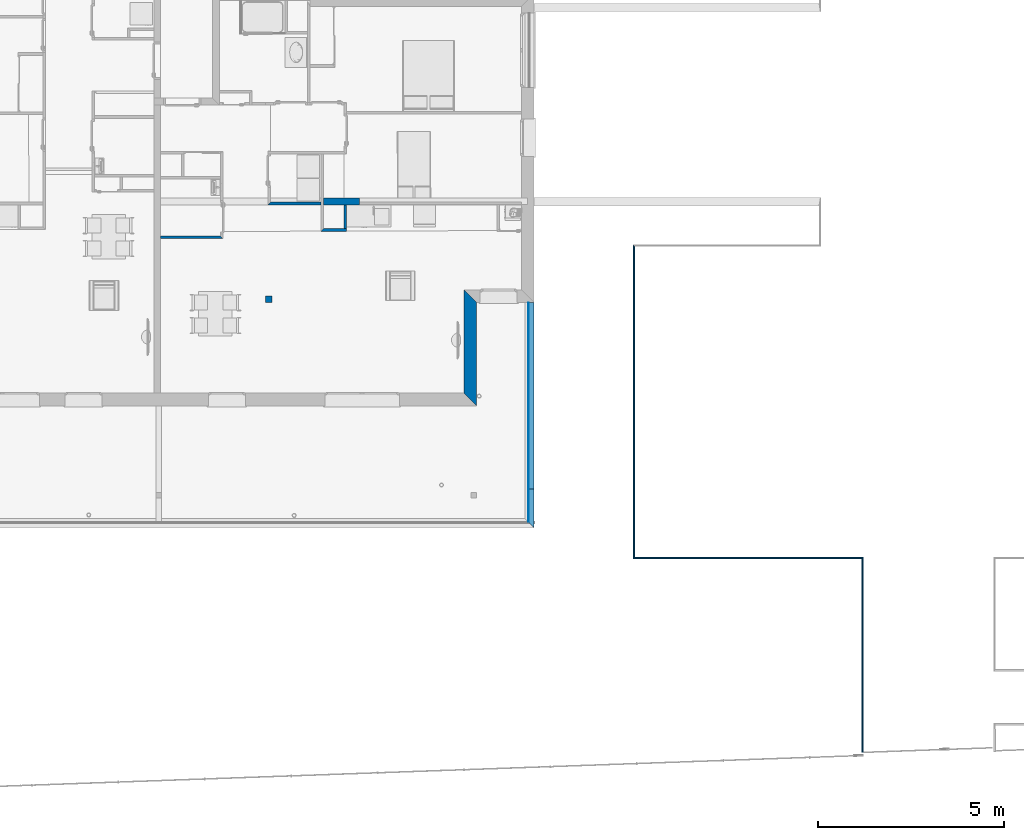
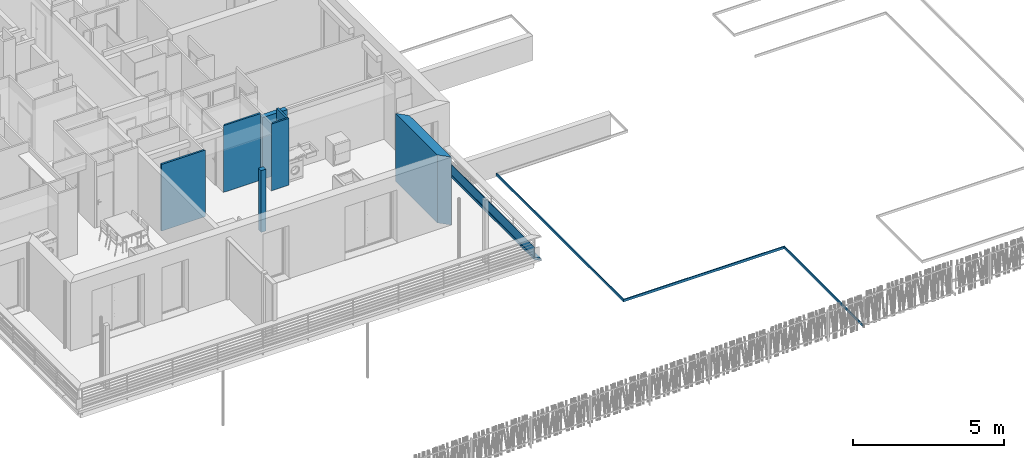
# One storey, part 24 of 171: 13 walls.
"""IFC2X3 building model written with IfcOpenShell, lengths in millimetres."""

from ifc_helpers import new_model, entity, si_unit, converted_unit, derived_unit, money_unit, direction, frame, origin_with_axes, place, context, subcontext, project, spatial, polyline, outline, extrude, material, layer, layer_set, layer_usage, type_object, element, save


model = new_model("IFC2X3")

# Units and contexts
model_context = context("Model", 3, precision=0.01, world=origin_with_axes(), true_north=direction((0.0, 1.0)))
body_context = subcontext(model_context, "Body", "Model", "MODEL_VIEW")
ifc_project = project(units=[si_unit("LENGTHUNIT", "METRE", prefix="MILLI"), si_unit("AREAUNIT", "SQUARE_METRE"), si_unit("VOLUMEUNIT", "CUBIC_METRE"), converted_unit("PLANEANGLEUNIT", "DEGREE", entity("IfcPlaneAngleMeasure", 0.0174532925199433), si_unit("PLANEANGLEUNIT", "RADIAN"), dimensions=[0, 0, 0, 0, 0, 0, 0]), money_unit("USD"), converted_unit("TIMEUNIT", "Year", entity("IfcTimeMeasure", 31557600.0), si_unit("TIMEUNIT", "SECOND"), dimensions=[0, 0, 1, 0, 0, 0, 0]), si_unit("MASSUNIT", "GRAM", prefix="KILO"), si_unit("THERMODYNAMICTEMPERATUREUNIT", "DEGREE_CELSIUS"), si_unit("LUMINOUSINTENSITYUNIT", "LUMEN"), si_unit("ENERGYUNIT", "JOULE", prefix="MEGA"), derived_unit("THERMALCONDUCTANCEUNIT", [(si_unit("POWERUNIT", "WATT"), 1), (si_unit("LENGTHUNIT", "METRE"), -1), (si_unit("THERMODYNAMICTEMPERATUREUNIT", "KELVIN"), -1)]), derived_unit("SPECIFICHEATCAPACITYUNIT", [(si_unit("ENERGYUNIT", "JOULE"), 1), (si_unit("MASSUNIT", "GRAM", prefix="KILO"), -1), (si_unit("THERMODYNAMICTEMPERATUREUNIT", "KELVIN"), -1)]), derived_unit("MASSDENSITYUNIT", [(si_unit("MASSUNIT", "GRAM", prefix="KILO"), 1), (si_unit("VOLUMEUNIT", "CUBIC_METRE"), -1)])], contexts=[model_context])

# Site, building, storey
site_placement = place(None, origin_with_axes())
site = spatial("IfcSite", under=ifc_project, at=site_placement, Name="Site", CompositionType="ELEMENT")
building_placement = place(site_placement, origin_with_axes())
building = spatial("IfcBuilding", under=site, at=building_placement, Name="Bâtiment", CompositionType="ELEMENT")
storey_placement = place(building_placement, frame((0.0, 0.0, 3000.0), z_axis=(0.0, 0.0, 1.0), x_axis=(1.0, 0.0, 0.0)))
storey = spatial("IfcBuildingStorey", under=building, at=storey_placement, Name="rdc", CompositionType="ELEMENT", Elevation=3000.0)

# Walls
ifc_material_1 = material(Name="Parpaing 314940890")
ifc_layer_1 = layer(ifc_material_1, 180.0, ventilated="UNKNOWN")
ifc_layer_set_1 = layer_set([ifc_layer_1], Name="Beton  18 0170347028")
ifc_layer_usage_1 = layer_usage(ifc_layer_set_1, "AXIS2", "NEGATIVE", 180.0)
wall_type_1 = type_object("IfcWallType", Name="Beton  18 0170347028 180", PredefinedType="NOTDEFINED")
wall_1_placement = place(storey_placement, frame((2234356.641340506, -661097.9024403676, 0.0), z_axis=(0.0, 0.0, 1.0), x_axis=(3.078795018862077e-10, 1.0, 0.0)))
element("IfcWallStandardCase", 1, at=wall_1_placement, inside=storey, type_object=wall_type_1, material=ifc_layer_usage_1, Name="Mur-134", context=body_context, shape_type="SweptSolid", body=[
    extrude(outline(polyline([(0.0, 0.0), (1049.799280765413, 0.0), (1049.799280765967, 179.99999999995), (179.9957277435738, 180.0000000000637), (0.0, 0.0)])), origin_with_axes(), (0.0, 0.0, 1.0), 100.0),
])
ifc_layer_usage_2 = layer_usage(ifc_layer_set_1, "AXIS2", "NEGATIVE", 180.0)
wall_2_placement = place(storey_placement, frame((2234356.641340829, -660048.1031596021, 0.0), z_axis=(0.0, 0.0, 1.0), x_axis=(3.140864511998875e-10, 1.0, 0.0)))
element("IfcWallStandardCase", 2, at=wall_2_placement, inside=storey, type_object=wall_type_1, material=ifc_layer_usage_2, Name="Mur-134", context=body_context, shape_type="SweptSolid", body=[
    extrude(outline(polyline([(0.0, 0.0), (5006.635381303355, 0.0), (5006.635381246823, 179.99999999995), (-5.684341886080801e-10, 179.99999999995), (0.0, 0.0)])), origin_with_axes(), (0.0, 0.0, 1.0), 100.0),
])
ifc_layer_2 = layer(ifc_material_1, 180.0, ventilated="UNKNOWN")
ifc_layer_set_2 = layer_set([ifc_layer_2], Name="Beton  18 0018356637")
ifc_layer_usage_3 = layer_usage(ifc_layer_set_2, "AXIS2", "POSITIVE", 0.0)
wall_type_2 = type_object("IfcWallType", Name="Beton  18 0018356637 180", PredefinedType="NOTDEFINED")
wall_3_placement = place(storey_placement, frame((2228626.880895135, -652413.3050478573, 0.0), z_axis=(0.0, 0.0, 1.0), x_axis=(0.9999998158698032, 0.0006068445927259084, 0.0)))
element("IfcWallStandardCase", 3, at=wall_3_placement, inside=storey, type_object=wall_type_2, material=ifc_layer_usage_3, Name="Mur-143", context=body_context, shape_type="SweptSolid", body=[
    extrude(outline(polyline([(69.99721444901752, 0.0), (1026.595336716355, 0.0), (1026.595336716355, 180.000000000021), (70.10574042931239, 180.000000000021), (69.99721444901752, 0.0)])), origin_with_axes(), (0.0, 0.0, 1.0), 2500.0),
])
ifc_material_2 = material(Name="Hachure solide 268963992")
ifc_layer_3 = layer(ifc_material_2, 70.0, ventilated="UNKNOWN")
ifc_layer_set_3 = layer_set([ifc_layer_3], Name="Cloison 70 0826278243")
ifc_layer_usage_4 = layer_usage(ifc_layer_set_3, "AXIS2", "NEGATIVE", 70.0)
wall_type_3 = type_object("IfcWallType", Name="Cloison 70 0826278243 70", PredefinedType="NOTDEFINED")
wall_4_placement = place(storey_placement, frame((2228626.880896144, -653126.9364621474, 0.0), z_axis=(0.0, 0.0, 1.0), x_axis=(1.0, 0.0, 0.0)))
element("IfcWallStandardCase", 4, at=wall_4_placement, inside=storey, type_object=wall_type_3, material=ifc_layer_usage_4, Name="Mur-149", context=body_context, shape_type="SweptSolid", body=[
    extrude(outline(polyline([(0.0, 0.0), (679.9996471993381, 0.0), (679.9996471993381, 69.99999999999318), (69.99972541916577, 69.99999999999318), (0.0, 0.0)])), origin_with_axes(), (0.0, 0.0, 1.0), 2700.0),
])
ifc_layer_usage_5 = layer_usage(ifc_layer_set_3, "AXIS2", "NEGATIVE", 70.0)
wall_5_placement = place(storey_placement, frame((2229236.880543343, -652412.9348728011, 0.0), z_axis=(0.0, 0.0, 1.0), x_axis=(0.0, -1.0, 0.0)))
element("IfcWallStandardCase", 5, at=wall_5_placement, inside=storey, type_object=wall_type_3, material=ifc_layer_usage_5, Name="Mur-149", context=body_context, shape_type="SweptSolid", body=[
    extrude(outline(polyline([(0.0, 0.0), (644.0015893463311, 0.0), (644.0015893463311, 70.00000000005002), (-0.0424791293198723, 70.00000000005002), (0.0, 0.0)])), origin_with_axes(), (0.0, 0.0, 1.0), 2700.0),
])
ifc_layer_usage_6 = layer_usage(ifc_layer_set_3, "AXIS2", "NEGATIVE", 70.0)
wall_6_placement = place(storey_placement, frame((2227202.332525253, -652413.3050478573, 0.0), z_axis=(0.0, 0.0, 1.0), x_axis=(1.0, 0.0, 0.0)))
element("IfcWallStandardCase", 6, at=wall_6_placement, inside=storey, type_object=wall_type_3, material=ifc_layer_usage_6, Name="Mur-149", context=body_context, shape_type="SweptSolid", body=[
    extrude(outline(polyline([(0.0, 0.0), (1424.545571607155, 0.0), (1424.545297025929, 69.99999999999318), (70.000485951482, 69.99999999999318), (0.0, 0.0)])), origin_with_axes(), (0.0, 0.0, 1.0), 2700.0),
])
ifc_layer_usage_7 = layer_usage(ifc_layer_set_3, "AXIS2", "NEGATIVE", 70.0)
wall_7_placement = place(storey_placement, frame((2224312.35112016, -653324.3517134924, 0.0), z_axis=(0.0, 0.0, 1.0), x_axis=(1.0, 0.0, 0.0)))
element("IfcWallStandardCase", 7, at=wall_7_placement, inside=storey, type_object=wall_type_3, material=ifc_layer_usage_7, Name="Mur-149", context=body_context, shape_type="SweptSolid", body=[
    extrude(outline(polyline([(0.0, 0.0), (1674.471851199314, 0.0), (1604.471851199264, 69.99999999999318), (0.0, 69.99999999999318), (0.0, 0.0)])), origin_with_axes(), (0.0, 0.0, 1.0), 2700.0),
])
ifc_material_3 = material(Name="MANQUANT")
ifc_layer_4 = layer(ifc_material_3, 20.0, ventilated="UNKNOWN")
ifc_layer_set_4 = layer_set([ifc_layer_4], Name="MANQUANT 20")
ifc_layer_usage_8 = layer_usage(ifc_layer_set_4, "AXIS2", "NEGATIVE", 20.0)
wall_type_4 = type_object("IfcWallType", Name="MANQUANT 20", PredefinedType="NOTDEFINED")
wall_8_placement = place(storey_placement, frame((2234215.567546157, -660934.156593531, 100.0000000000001), z_axis=(0.0, 0.0, 1.0), x_axis=(1.351454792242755e-06, 0.9999999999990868, 0.0)))
element("IfcWallStandardCase", 8, at=wall_8_placement, inside=storey, type_object=wall_type_4, material=ifc_layer_usage_8, Name="Mur-152", context=body_context, shape_type="SweptSolid", body=[
    extrude(outline(polyline([(0.0, 0.0), (5892.688815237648, 0.0), (5892.688788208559, 19.99999999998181), (0.0, 19.99999999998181), (0.0, 0.0)])), origin_with_axes(), (0.0, 0.0, 1.0), 400.0),
])
ifc_material_4 = material(Name="Parpaing 312445824")
ifc_layer_5 = layer(ifc_material_4, 180.0, ventilated="UNKNOWN")
ifc_material_5 = material(Name="Isolant styromousse 301821074")
ifc_layer_6 = layer(ifc_material_5, 160.0, ventilated="UNKNOWN")
ifc_layer_set_5 = layer_set([ifc_layer_5, ifc_layer_6], Name="isol int 18+16 0018356637")
ifc_layer_usage_9 = layer_usage(ifc_layer_set_5, "AXIS2", "POSITIVE", 0.0)
wall_type_5 = type_object("IfcWallType", Name="isol int 18+16 0018356637 340", PredefinedType="NOTDEFINED")
wall_9_placement = place(storey_placement, frame((2232806.658098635, -657818.3230769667, 0.0), z_axis=(0.0, 0.0, 1.0), x_axis=(0.0, 1.0, 0.0)))
element("IfcWallStandardCase", 9, at=wall_9_placement, inside=storey, type_object=wall_type_5, material=ifc_layer_usage_9, Name="Mur-142", context=body_context, shape_type="SweptSolid", body=[
    extrude(outline(polyline([(0.0, 0.0), (2776.855298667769, 0.0), (3116.855298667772, 340.0000000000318), (339.9999999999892, 340.0000000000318), (0.0, 0.0)])), origin_with_axes(), (0.0, 0.0, 1.0), 2750.0),
])
ifc_material_6 = material(Name="Empty Fill 292498448")
ifc_layer_7 = layer(ifc_material_6, 40.0, ventilated="UNKNOWN")
ifc_layer_set_6 = layer_set([ifc_layer_7], Name="mur 4cm")
ifc_layer_usage_10 = layer_usage(ifc_layer_set_6, "AXIS2", "POSITIVE", -40.0)
wall_type_6 = type_object("IfcWallType", Name="mur 4cm 40", PredefinedType="NOTDEFINED")
wall_10_placement = place(storey_placement, frame((2243206.657583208, -661892.7055840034, -2100.0), z_axis=(0.0, 0.0, 1.0), x_axis=(0.0, -1.0, 0.0)))
element("IfcWallStandardCase", 10, at=wall_10_placement, inside=storey, type_object=wall_type_6, material=ifc_layer_usage_10, Name="Mur-155", context=body_context, shape_type="SweptSolid", body=[
    extrude(outline(polyline([(40.00000000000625, -39.99999999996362), (5232.056743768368, -39.99999999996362), (5232.056743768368, 0.0), (0.0, 0.0), (40.00000000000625, -39.99999999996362)])), origin_with_axes(), (0.0, 0.0, 1.0), 100.0),
])
ifc_layer_usage_11 = layer_usage(ifc_layer_set_6, "AXIS2", "POSITIVE", -40.0)
wall_11_placement = place(storey_placement, frame((2237056.657583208, -661892.7055840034, -2100.0), z_axis=(0.0, 0.0, 1.0), x_axis=(1.0, 0.0, 0.0)))
element("IfcWallStandardCase", 11, at=wall_11_placement, inside=storey, type_object=wall_type_6, material=ifc_layer_usage_11, Name="Mur-154", context=body_context, shape_type="SweptSolid", body=[
    extrude(outline(polyline([(-39.99999999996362, -40.00000000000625), (6110.000000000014, -40.00000000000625), (6149.999999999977, 0.0), (0.0, 0.0), (-39.99999999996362, -40.00000000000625)])), origin_with_axes(), (0.0, 0.0, 1.0), 100.0),
])
ifc_layer_usage_12 = layer_usage(ifc_layer_set_6, "AXIS2", "POSITIVE", -40.0)
wall_12_placement = place(storey_placement, frame((2237056.657583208, -653522.7055840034, -2100.0), z_axis=(0.0, 0.0, 1.0), x_axis=(0.0, -1.0, 0.0)))
element("IfcWallStandardCase", 12, at=wall_12_placement, inside=storey, type_object=wall_type_6, material=ifc_layer_usage_12, Name="Mur-153", context=body_context, shape_type="SweptSolid", body=[
    extrude(outline(polyline([(-40.00000000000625, -39.99999999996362), (8410.000000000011, -39.99999999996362), (8370.000000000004, 0.0), (0.0, 0.0), (-40.00000000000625, -39.99999999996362)])), origin_with_axes(), (0.0, 0.0, 1.0), 100.0),
])
ifc_layer_8 = layer(ifc_material_4, 180.0, ventilated="UNKNOWN")
ifc_layer_set_7 = layer_set([ifc_layer_8], Name="Beton  18 0836643197")
ifc_layer_usage_13 = layer_usage(ifc_layer_set_7, "AXIS2", "NEGATIVE", 0.0)
wall_type_7 = type_object("IfcWallType", Name="Beton  18 0836643197 180", PredefinedType="NOTDEFINED")
wall_13_placement = place(storey_placement, frame((2227308.402980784, -655041.4677782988, 0.0), z_axis=(0.0, 0.0, 1.0), x_axis=(-1.0, 0.0, 0.0)))
element("IfcWallStandardCase", 13, at=wall_13_placement, inside=storey, type_object=wall_type_7, material=ifc_layer_usage_13, Name="Mur-143", context=body_context, shape_type="SweptSolid", body=[
    extrude(outline(polyline([(0.0, -180.0000000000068), (176.068239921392, -180.0000000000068), (176.068239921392, 0.0), (0.0, 0.0), (0.0, -180.0000000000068)])), origin_with_axes(), (0.0, 0.0, 1.0), 2500.0),
])

save(model, "model.ifc")
